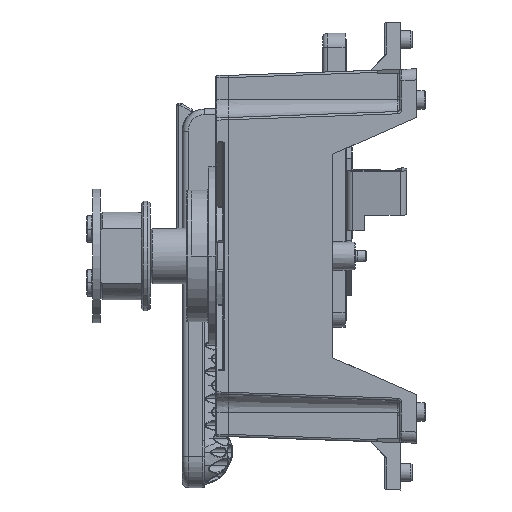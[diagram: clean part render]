
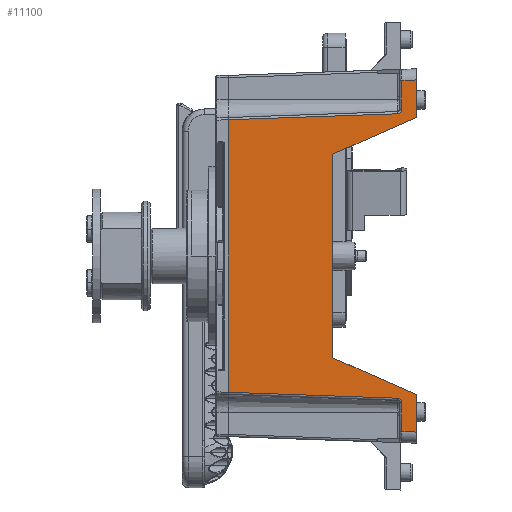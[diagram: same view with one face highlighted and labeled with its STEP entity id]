
A CAD part, left-side view. The second image highlights one B-rep face of the part: STEP entity #11100.
In plain terms, the highlighted planar face has unit normal (-0.999, 0.035, 0).
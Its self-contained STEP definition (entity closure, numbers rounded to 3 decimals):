
#5732=B_SPLINE_CURVE_WITH_KNOTS('',3,(#156562,#156563,#156564,#156565,#156566,
#156567,#156568,#156569,#156570,#156571,#156572,#156573,#156574,#156575,
#156576,#156577),.UNSPECIFIED.,.F.,.F.,(4,2,2,2,2,2,2,4),(0.,0.125,
0.188,0.25,0.5,0.625,
0.75,1.),.UNSPECIFIED.);
#5733=B_SPLINE_CURVE_WITH_KNOTS('',3,(#156621,#156622,#156623,#156624,#156625,
#156626,#156627,#156628,#156629,#156630,#156631,#156632,#156633,#156634,
#156635,#156636,#156637,#156638),.UNSPECIFIED.,.F.,.F.,(4,2,2,2,2,2,2,2,
4),(0.,0.125,0.25,0.5,0.562,0.625,
0.687,0.75,1.),.UNSPECIFIED.);
#5734=B_SPLINE_CURVE_WITH_KNOTS('',3,(#156654,#156655,#156656,#156657),
 .UNSPECIFIED.,.F.,.F.,(4,4),(0.,1.),.UNSPECIFIED.);
#11100=ADVANCED_FACE('',(#16391),#12879,.T.);
#12879=PLANE('',#76449);
#16391=FACE_OUTER_BOUND('',#20719,.T.);
#20719=EDGE_LOOP('',(#47770,#47771,#47772,#47773,#47774,#47775,#47776,#47777,
#47778,#47779,#47780,#47781,#47782,#47783,#47784,#47785));
#25342=LINE('',#154901,#30046);
#25351=LINE('',#154986,#30055);
#25384=LINE('',#155578,#30088);
#25448=LINE('',#156371,#30152);
#25454=LINE('',#156619,#30158);
#25455=LINE('',#156641,#30159);
#25456=LINE('',#156643,#30160);
#25457=LINE('',#156644,#30161);
#25458=LINE('',#156646,#30162);
#25459=LINE('',#156648,#30163);
#25460=LINE('',#156650,#30164);
#25461=LINE('',#156652,#30165);
#25462=LINE('',#156653,#30166);
#30046=VECTOR('',#93488,1.);
#30055=VECTOR('',#93515,1.);
#30088=VECTOR('',#93652,1.);
#30152=VECTOR('',#93950,1.);
#30158=VECTOR('',#93980,1.);
#30159=VECTOR('',#93983,1.);
#30160=VECTOR('',#93984,1.);
#30161=VECTOR('',#93985,1.);
#30162=VECTOR('',#93986,1.);
#30163=VECTOR('',#93987,1.);
#30164=VECTOR('',#93988,1.);
#30165=VECTOR('',#93989,1.);
#30166=VECTOR('',#93990,1.);
#47770=ORIENTED_EDGE('',*,*,#65710,.F.);
#47771=ORIENTED_EDGE('',*,*,#65711,.F.);
#47772=ORIENTED_EDGE('',*,*,#65712,.F.);
#47773=ORIENTED_EDGE('',*,*,#65412,.T.);
#47774=ORIENTED_EDGE('',*,*,#65713,.T.);
#47775=ORIENTED_EDGE('',*,*,#65714,.T.);
#47776=ORIENTED_EDGE('',*,*,#65715,.T.);
#47777=ORIENTED_EDGE('',*,*,#65716,.T.);
#47778=ORIENTED_EDGE('',*,*,#65717,.F.);
#47779=ORIENTED_EDGE('',*,*,#65393,.T.);
#47780=ORIENTED_EDGE('',*,*,#65681,.F.);
#47781=ORIENTED_EDGE('',*,*,#65709,.F.);
#47782=ORIENTED_EDGE('',*,*,#65707,.F.);
#47783=ORIENTED_EDGE('',*,*,#65718,.F.);
#47784=ORIENTED_EDGE('',*,*,#65509,.T.);
#47785=ORIENTED_EDGE('',*,*,#65719,.F.);
#56051=VERTEX_POINT('',#154900);
#56052=VERTEX_POINT('',#154902);
#56068=VERTEX_POINT('',#154985);
#56069=VERTEX_POINT('',#154987);
#56142=VERTEX_POINT('',#155577);
#56143=VERTEX_POINT('',#155579);
#56275=VERTEX_POINT('',#156372);
#56289=VERTEX_POINT('',#156561);
#56290=VERTEX_POINT('',#156578);
#56291=VERTEX_POINT('',#156639);
#56292=VERTEX_POINT('',#156640);
#56293=VERTEX_POINT('',#156642);
#56294=VERTEX_POINT('',#156645);
#56295=VERTEX_POINT('',#156647);
#56296=VERTEX_POINT('',#156649);
#56297=VERTEX_POINT('',#156651);
#65393=EDGE_CURVE('',#56052,#56051,#25342,.T.);
#65412=EDGE_CURVE('',#56069,#56068,#25351,.T.);
#65509=EDGE_CURVE('',#56143,#56142,#25384,.T.);
#65681=EDGE_CURVE('',#56275,#56051,#25448,.T.);
#65707=EDGE_CURVE('',#56289,#56290,#5732,.T.);
#65709=EDGE_CURVE('',#56290,#56275,#25454,.T.);
#65710=EDGE_CURVE('',#56291,#56292,#5733,.T.);
#65711=EDGE_CURVE('',#56293,#56291,#25455,.T.);
#65712=EDGE_CURVE('',#56069,#56293,#25456,.T.);
#65713=EDGE_CURVE('',#56068,#56294,#25457,.T.);
#65714=EDGE_CURVE('',#56294,#56295,#25458,.T.);
#65715=EDGE_CURVE('',#56295,#56296,#25459,.T.);
#65716=EDGE_CURVE('',#56296,#56297,#25460,.T.);
#65717=EDGE_CURVE('',#56052,#56297,#25461,.T.);
#65718=EDGE_CURVE('',#56143,#56289,#25462,.T.);
#65719=EDGE_CURVE('',#56292,#56142,#5734,.T.);
#76449=AXIS2_PLACEMENT_3D('',#156658,#93991,#93992);
#93488=DIRECTION('',(0.,0.,1.));
#93515=DIRECTION('',(0.,0.,1.));
#93652=DIRECTION('',(0.,0.,-1.));
#93950=DIRECTION('',(-0.035,-0.999,0.035));
#93980=DIRECTION('',(0.,0.,1.));
#93983=DIRECTION('',(0.,0.,1.));
#93984=DIRECTION('',(0.035,0.999,0.035));
#93985=DIRECTION('',(0.035,0.999,0.035));
#93986=DIRECTION('',(0.032,0.915,0.403));
#93987=DIRECTION('',(0.,0.,1.));
#93988=DIRECTION('',(-0.032,-0.915,0.403));
#93989=DIRECTION('',(0.035,0.999,-0.035));
#93990=DIRECTION('',(-0.035,-0.999,0.035));
#93991=DIRECTION('',(-0.999,0.035,0.));
#93992=DIRECTION('',(0.,0.,1.));
#154900=CARTESIAN_POINT('',(-125.,-20.5,79.003));
#154901=CARTESIAN_POINT('',(-125.,-20.5,61.996));
#154902=CARTESIAN_POINT('',(-125.,-20.5,61.996));
#154985=CARTESIAN_POINT('',(-125.,-20.5,-61.996));
#154986=CARTESIAN_POINT('',(-125.,-20.5,-79.003));
#154987=CARTESIAN_POINT('',(-125.,-20.5,-79.003));
#155577=CARTESIAN_POINT('',(-122.049,64.,-61.151));
#155578=CARTESIAN_POINT('',(-122.049,64.,61.151));
#155579=CARTESIAN_POINT('',(-122.049,64.,61.151));
#156371=CARTESIAN_POINT('',(-114.77,272.455,68.773));
#156372=CARTESIAN_POINT('',(-124.772,-13.965,78.775));
#156561=CARTESIAN_POINT('',(-124.704,-12.035,63.806));
#156562=CARTESIAN_POINT('',(-124.704,-12.035,63.806));
#156563=CARTESIAN_POINT('',(-124.709,-12.165,63.81));
#156564=CARTESIAN_POINT('',(-124.713,-12.294,63.827));
#156565=CARTESIAN_POINT('',(-124.72,-12.483,63.871));
#156566=CARTESIAN_POINT('',(-124.721,-12.507,63.877));
#156567=CARTESIAN_POINT('',(-124.726,-12.644,63.922));
#156568=CARTESIAN_POINT('',(-124.73,-12.758,63.967));
#156569=CARTESIAN_POINT('',(-124.74,-13.044,64.103));
#156570=CARTESIAN_POINT('',(-124.746,-13.226,64.232));
#156571=CARTESIAN_POINT('',(-124.755,-13.494,64.508));
#156572=CARTESIAN_POINT('',(-124.759,-13.604,64.656));
#156573=CARTESIAN_POINT('',(-124.762,-13.682,64.778));
#156574=CARTESIAN_POINT('',(-124.765,-13.771,64.937));
#156575=CARTESIAN_POINT('',(-124.77,-13.916,65.292));
#156576=CARTESIAN_POINT('',(-124.772,-13.966,65.548));
#156577=CARTESIAN_POINT('',(-124.772,-13.965,65.805));
#156578=CARTESIAN_POINT('',(-124.772,-13.965,65.805));
#156619=CARTESIAN_POINT('',(-124.772,-13.965,-378.765));
#156621=CARTESIAN_POINT('',(-124.772,-13.965,-65.805));
#156622=CARTESIAN_POINT('',(-124.772,-13.965,-65.794));
#156623=CARTESIAN_POINT('',(-124.772,-13.974,-65.677));
#156624=CARTESIAN_POINT('',(-124.769,-13.899,-65.247));
#156625=CARTESIAN_POINT('',(-124.768,-13.867,-65.172));
#156626=CARTESIAN_POINT('',(-124.763,-13.724,-64.821));
#156627=CARTESIAN_POINT('',(-124.758,-13.582,-64.601));
#156628=CARTESIAN_POINT('',(-124.751,-13.36,-64.369));
#156629=CARTESIAN_POINT('',(-124.749,-13.313,-64.325));
#156630=CARTESIAN_POINT('',(-124.746,-13.215,-64.242));
#156631=CARTESIAN_POINT('',(-124.743,-13.137,-64.184));
#156632=CARTESIAN_POINT('',(-124.741,-13.086,-64.149));
#156633=CARTESIAN_POINT('',(-124.74,-13.047,-64.122));
#156634=CARTESIAN_POINT('',(-124.736,-12.938,-64.057));
#156635=CARTESIAN_POINT('',(-124.732,-12.839,-64.005));
#156636=CARTESIAN_POINT('',(-124.722,-12.546,-63.873));
#156637=CARTESIAN_POINT('',(-124.713,-12.291,-63.814));
#156638=CARTESIAN_POINT('',(-124.704,-12.035,-63.806));
#156639=CARTESIAN_POINT('',(-124.772,-13.965,-65.805));
#156640=CARTESIAN_POINT('',(-124.704,-12.035,-63.806));
#156641=CARTESIAN_POINT('',(-124.772,-13.965,-79.899));
#156642=CARTESIAN_POINT('',(-124.772,-13.965,-78.775));
#156643=CARTESIAN_POINT('',(-133.35,-259.607,-87.353));
#156644=CARTESIAN_POINT('',(-125.,-20.5,-61.996));
#156645=CARTESIAN_POINT('',(-124.982,-19.977,-61.978));
#156646=CARTESIAN_POINT('',(-124.982,-19.977,-61.978));
#156647=CARTESIAN_POINT('',(-123.69,17.,-45.687));
#156648=CARTESIAN_POINT('',(-123.69,17.,-45.687));
#156649=CARTESIAN_POINT('',(-123.69,17.,45.687));
#156650=CARTESIAN_POINT('',(-123.69,17.,45.687));
#156651=CARTESIAN_POINT('',(-124.982,-19.977,61.978));
#156652=CARTESIAN_POINT('',(-125.,-20.5,61.996));
#156653=CARTESIAN_POINT('',(-114.775,272.316,53.876));
#156654=CARTESIAN_POINT('',(-124.704,-12.035,-63.806));
#156655=CARTESIAN_POINT('',(-123.819,13.31,-62.921));
#156656=CARTESIAN_POINT('',(-122.934,38.655,-62.036));
#156657=CARTESIAN_POINT('',(-122.049,64.,-61.151));
#156658=CARTESIAN_POINT('',(-125.,-20.5,-109.922));
